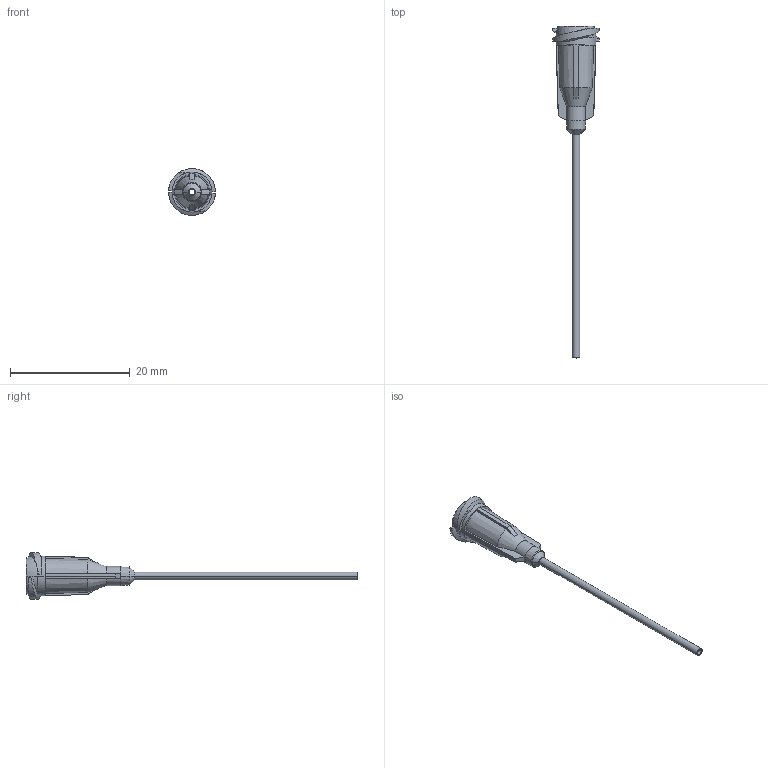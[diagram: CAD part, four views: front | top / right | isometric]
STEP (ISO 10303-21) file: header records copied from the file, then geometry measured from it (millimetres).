
FILE_DESCRIPTION (( 'STEP AP214' ), '1' );
FILE_NAME ('NORDSONEFD-7018112 TIP 18GA GP 033 X 15 GN.STEP', '2019-03-28T18:49:32', ( '' ), ( '' ), 'SwSTEP 2.0', 'SolidWorks 2019', '' );
FILE_SCHEMA (( 'AUTOMOTIVE_DESIGN' ));
Length unit declared in the file: inch
Products named in the file (1): NORDSONEFD-7018112 TIP 18GA GP 033 X 15 GN
Bounding box: 7.82 x 55.47 x 7.82 mm (x, y, z)
Volume: 286.5 mm3; surface area: 809.6 mm2
Topology: 1 solids, 1 shells, 98 faces, 228 edges, 136 vertices
Faces by surface type: plane 26, torus 22, cone 22, cylinder 16, bspline 12
Entity records: 3320 total; most frequent: CARTESIAN_POINT 997, DIRECTION 460, ORIENTED_EDGE 456, EDGE_CURVE 228, AXIS2_PLACEMENT_3D 201, VERTEX_POINT 136, CIRCLE 114, EDGE_LOOP 104
